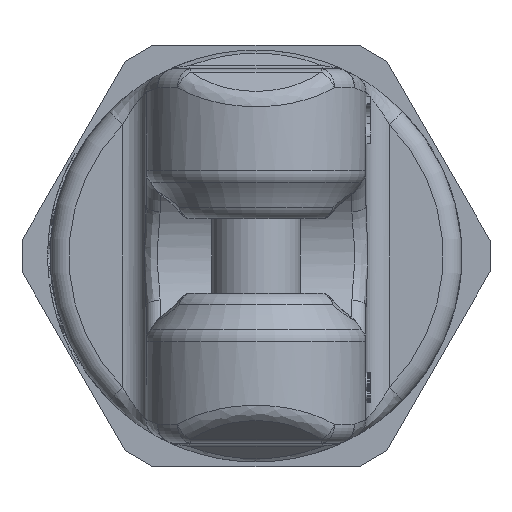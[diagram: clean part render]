
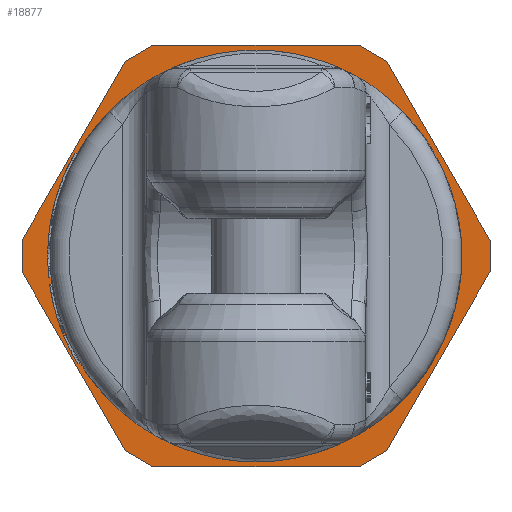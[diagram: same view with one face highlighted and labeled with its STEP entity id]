
A CAD part, left-side view. The second image highlights one B-rep face of the part: STEP entity #18877.
In plain terms, the highlighted planar face has unit normal (-1, 0, 0) as drawn and (0, 0, 1) by its records, which use the part's own axes.
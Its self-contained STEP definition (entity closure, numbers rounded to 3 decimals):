
#18478=DIRECTION('',(-0.866,-0.5,0.));
#18479=VECTOR('',#18478,6.795);
#18480=CARTESIAN_POINT('',(-22.058,45.,19.));
#18481=LINE('',#18480,#18479);
#18482=DIRECTION('',(-1.,0.,0.));
#18483=VECTOR('',#18482,44.115);
#18484=CARTESIAN_POINT('',(22.058,45.,19.));
#18485=LINE('',#18484,#18483);
#18486=DIRECTION('',(-0.866,0.5,0.));
#18487=VECTOR('',#18486,6.795);
#18488=CARTESIAN_POINT('',(27.942,41.603,19.));
#18489=LINE('',#18488,#18487);
#18490=DIRECTION('',(-0.5,0.866,0.));
#18491=VECTOR('',#18490,44.115);
#18492=CARTESIAN_POINT('',(50.,3.397,19.));
#18493=LINE('',#18492,#18491);
#18494=DIRECTION('',(0.,1.,0.));
#18495=VECTOR('',#18494,6.795);
#18496=CARTESIAN_POINT('',(50.,-3.397,19.));
#18497=LINE('',#18496,#18495);
#18498=DIRECTION('',(0.5,0.866,0.));
#18499=VECTOR('',#18498,44.115);
#18500=CARTESIAN_POINT('',(27.942,-41.603,19.));
#18501=LINE('',#18500,#18499);
#18502=DIRECTION('',(0.866,0.5,0.));
#18503=VECTOR('',#18502,6.795);
#18504=CARTESIAN_POINT('',(22.058,-45.,19.));
#18505=LINE('',#18504,#18503);
#18506=DIRECTION('',(1.,0.,0.));
#18507=VECTOR('',#18506,44.115);
#18508=CARTESIAN_POINT('',(-22.058,-45.,19.));
#18509=LINE('',#18508,#18507);
#18510=DIRECTION('',(0.866,-0.5,0.));
#18511=VECTOR('',#18510,6.795);
#18512=CARTESIAN_POINT('',(-27.942,-41.603,19.));
#18513=LINE('',#18512,#18511);
#18514=DIRECTION('',(0.5,-0.866,0.));
#18515=VECTOR('',#18514,44.115);
#18516=CARTESIAN_POINT('',(-50.,-3.397,19.));
#18517=LINE('',#18516,#18515);
#18518=DIRECTION('',(0.,-1.,0.));
#18519=VECTOR('',#18518,6.795);
#18520=CARTESIAN_POINT('',(-50.,3.397,19.));
#18521=LINE('',#18520,#18519);
#18522=DIRECTION('',(-0.5,-0.866,0.));
#18523=VECTOR('',#18522,44.115);
#18524=CARTESIAN_POINT('',(-27.942,41.603,19.));
#18525=LINE('',#18524,#18523);
#18550=CARTESIAN_POINT('',(-22.058,45.,19.));
#18551=CARTESIAN_POINT('',(-27.942,41.603,19.));
#18552=VERTEX_POINT('',#18550);
#18553=VERTEX_POINT('',#18551);
#18554=CARTESIAN_POINT('',(-50.,3.397,19.));
#18555=VERTEX_POINT('',#18554);
#18556=CARTESIAN_POINT('',(-50.,-3.397,19.));
#18557=VERTEX_POINT('',#18556);
#18558=CARTESIAN_POINT('',(-27.942,-41.603,19.));
#18559=VERTEX_POINT('',#18558);
#18560=CARTESIAN_POINT('',(-22.058,-45.,19.));
#18561=VERTEX_POINT('',#18560);
#18562=CARTESIAN_POINT('',(22.058,-45.,19.));
#18563=VERTEX_POINT('',#18562);
#18564=CARTESIAN_POINT('',(27.942,-41.603,19.));
#18565=VERTEX_POINT('',#18564);
#18566=CARTESIAN_POINT('',(50.,-3.397,19.));
#18567=VERTEX_POINT('',#18566);
#18568=CARTESIAN_POINT('',(50.,3.397,19.));
#18569=VERTEX_POINT('',#18568);
#18570=CARTESIAN_POINT('',(27.942,41.603,19.));
#18571=VERTEX_POINT('',#18570);
#18572=CARTESIAN_POINT('',(22.058,45.,19.));
#18573=VERTEX_POINT('',#18572);
#18858=CARTESIAN_POINT('',(0.,0.,19.));
#18859=DIRECTION('',(0.,0.,1.));
#18860=DIRECTION('',(1.,0.,0.));
#18861=AXIS2_PLACEMENT_3D('',#18858,#18859,#18860);
#18862=PLANE('',#18861);
#18863=ORIENTED_EDGE('',*,*,#18698,.F.);
#18864=ORIENTED_EDGE('',*,*,#18713,.F.);
#18865=ORIENTED_EDGE('',*,*,#18727,.F.);
#18866=ORIENTED_EDGE('',*,*,#18741,.F.);
#18867=ORIENTED_EDGE('',*,*,#18755,.F.);
#18868=ORIENTED_EDGE('',*,*,#18769,.F.);
#18869=ORIENTED_EDGE('',*,*,#18783,.F.);
#18870=ORIENTED_EDGE('',*,*,#18797,.F.);
#18871=ORIENTED_EDGE('',*,*,#18811,.F.);
#18872=ORIENTED_EDGE('',*,*,#18825,.F.);
#18873=ORIENTED_EDGE('',*,*,#18839,.F.);
#18874=ORIENTED_EDGE('',*,*,#18852,.F.);
#18875=EDGE_LOOP('',(#18863,#18864,#18865,#18866,#18867,#18868,#18869,#18870,
#18871,#18872,#18873,#18874));
#18876=FACE_OUTER_BOUND('',#18875,.F.);
#18877=ADVANCED_FACE('',(#18876),#18862,.T.);
#18698=EDGE_CURVE('',#18552,#18553,#18481,.T.);
#18713=EDGE_CURVE('',#18573,#18552,#18485,.T.);
#18727=EDGE_CURVE('',#18571,#18573,#18489,.T.);
#18741=EDGE_CURVE('',#18569,#18571,#18493,.T.);
#18755=EDGE_CURVE('',#18567,#18569,#18497,.T.);
#18769=EDGE_CURVE('',#18565,#18567,#18501,.T.);
#18783=EDGE_CURVE('',#18563,#18565,#18505,.T.);
#18797=EDGE_CURVE('',#18561,#18563,#18509,.T.);
#18811=EDGE_CURVE('',#18559,#18561,#18513,.T.);
#18825=EDGE_CURVE('',#18557,#18559,#18517,.T.);
#18839=EDGE_CURVE('',#18555,#18557,#18521,.T.);
#18852=EDGE_CURVE('',#18553,#18555,#18525,.T.);
